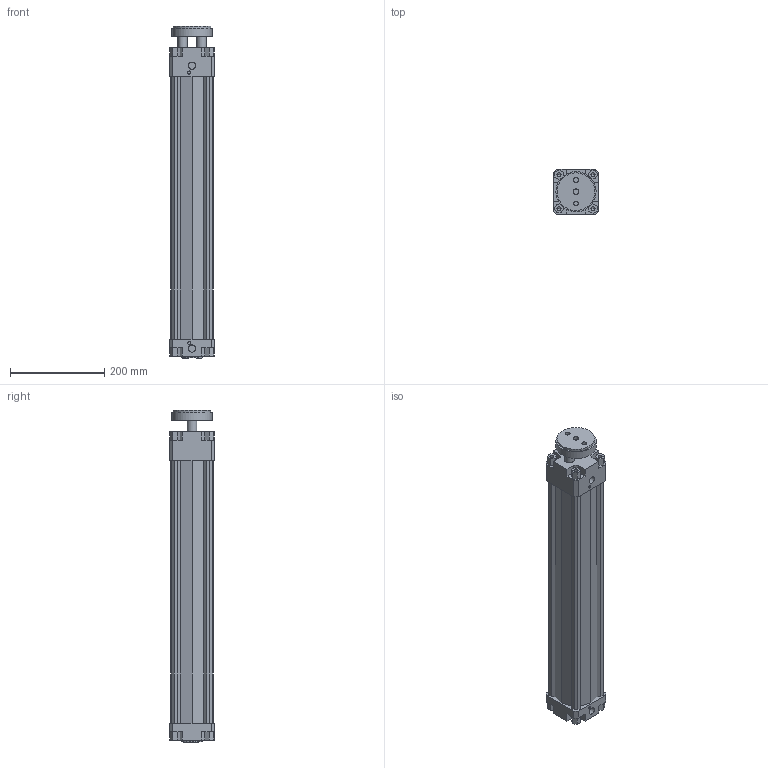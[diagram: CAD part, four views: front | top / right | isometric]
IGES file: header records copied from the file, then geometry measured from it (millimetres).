
Global section: file name: 134#_080_0500_01; native system: Autodesk Inventor 2014; preprocessor: unknown; author: A. Manieri; date: 20161006.165236; units: millimetre
Bounding box: 95 x 95 x 703 mm (x, y, z)
Volume: 2567452.7 mm3; surface area: 545232.4 mm2
Topology: 2 solids, 2 shells, 180 faces, 491 edges, 335 vertices
Faces by surface type: bspline 180
